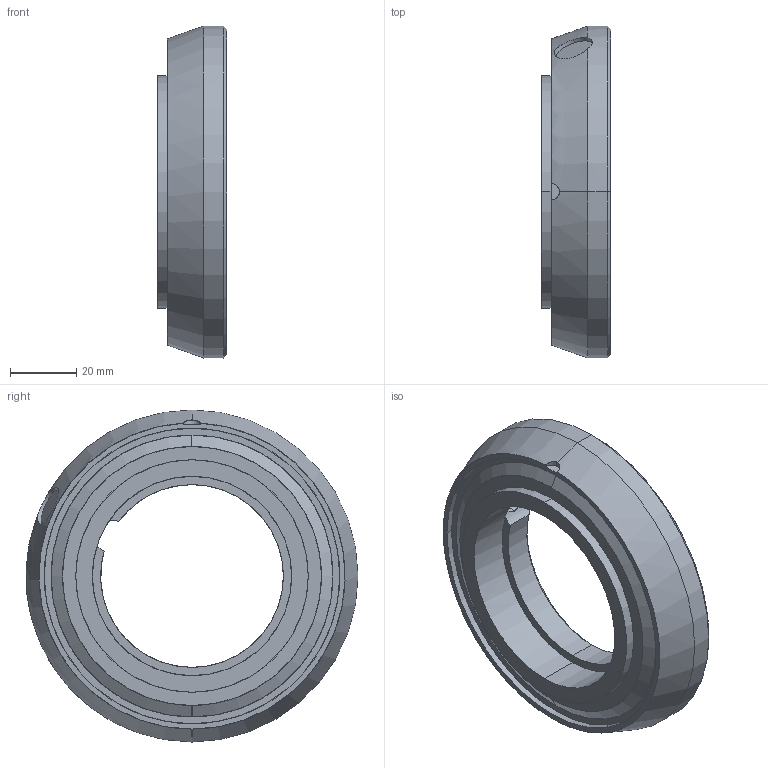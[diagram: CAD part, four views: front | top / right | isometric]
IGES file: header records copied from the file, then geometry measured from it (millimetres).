
Start section: SolidWorks IGES file using analytic representation for surfaces
Global section: file name: C:\Users\CNYUGAO6\Desktop\web model\IRB1660ID_4-155_IRC5_rev0_LINK6.IGS; native system: SolidWorks 2014; preprocessor: SolidWorks 2014; author: CNYUGAO6; date: 160905.132733; units: millimetre
Bounding box: 21 x 100 x 100 mm (x, y, z)
Surface area: 22623.5 mm2 (no closed solid volume)
Topology: 0 solids, 0 shells, 76 faces, 1534 edges, 1520 vertices
Faces by surface type: revolution 66, bspline 10
